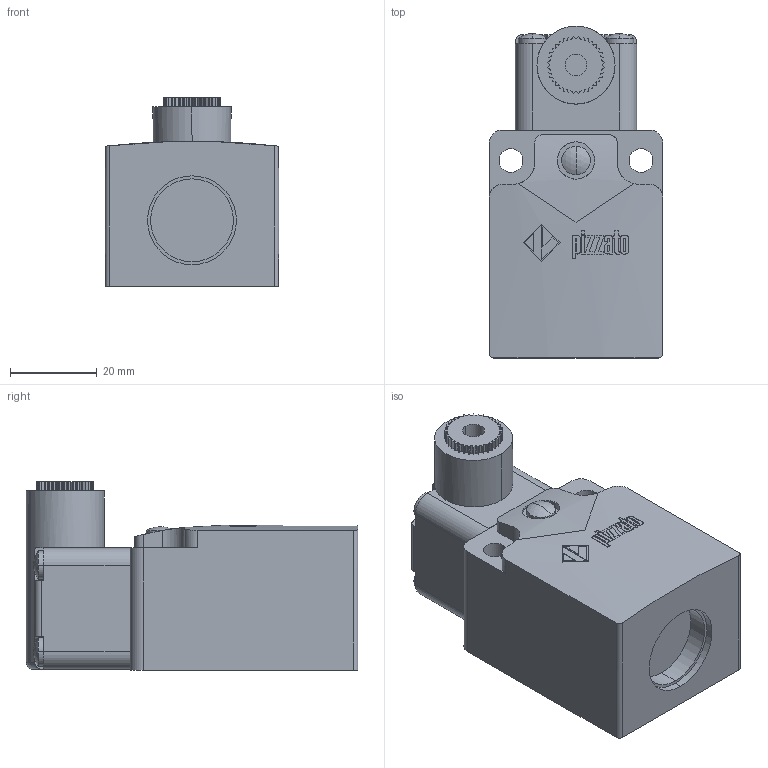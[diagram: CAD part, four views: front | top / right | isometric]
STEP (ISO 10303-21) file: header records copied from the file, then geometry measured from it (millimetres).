
FILE_DESCRIPTION (( 'STEP AP214' ), '1' );
FILE_NAME ('ZF_STEP_FC_x33.step', '2015-05-14T14:13:01', ( 'utente' ), ( 'Microsoft' ), 'SwSTEP 2.0', 'SolidWorks 2014', '' );
FILE_SCHEMA (( 'AUTOMOTIVE_DESIGN' ));
Length unit declared in the file: millimetre
Products named in the file (4): ZF_STEP_VF_T33; ZF_STEP_VF_T38_Lung Vite 2mm; Pizzato_Custodia_FC; ZF_STEP_FC_x33
Assembly tree (3 placements, depth 3):
  ZF_STEP_FC_x33
    Pizzato_Custodia_FC
    ZF_STEP_VF_T33
      ZF_STEP_VF_T38_Lung Vite 2mm
Bounding box: 40 x 76.5 x 43.45 mm (x, y, z)
Volume: 85001.6 mm3; surface area: 18026.2 mm2
Topology: 2 solids, 2 shells, 552 faces, 1515 edges, 1009 vertices
Faces by surface type: plane 294, cylinder 149, bspline 97, sphere 10, torus 2
Entity records: 22744 total; most frequent: CARTESIAN_POINT 8987, ORIENTED_EDGE 3030, DIRECTION 2539, EDGE_CURVE 1515, VERTEX_POINT 1009, LINE 919, VECTOR 919, AXIS2_PLACEMENT_3D 810
